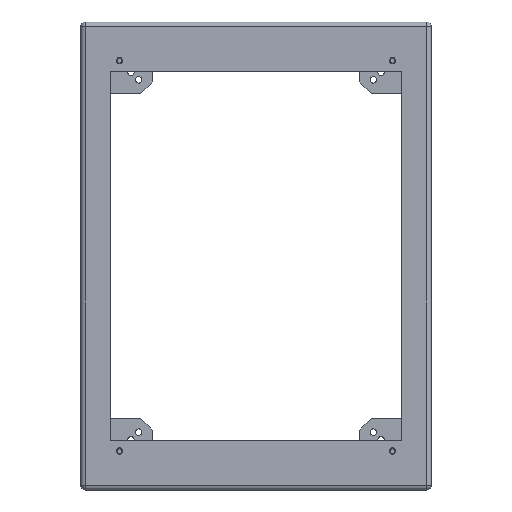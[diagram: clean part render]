
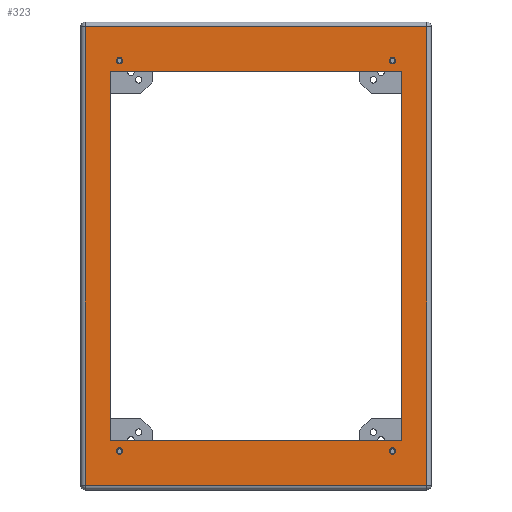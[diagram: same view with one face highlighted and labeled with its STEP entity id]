
A CAD part, top view. The second image highlights one B-rep face of the part: STEP entity #323.
In plain terms, the highlighted planar face has unit normal (0, 0, 1).
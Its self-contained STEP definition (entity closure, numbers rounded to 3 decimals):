
#323=ADVANCED_FACE('',(#1556,#1558,#1560,#1562,#1564,#1566),#1568,.T.);
#1556=FACE_BOUND('',#1557,.T.);
#1557=EDGE_LOOP('',(#2606,#2607,#2608,#2609));
#1558=FACE_BOUND('',#1559,.T.);
#1559=EDGE_LOOP('',(#2610));
#1560=FACE_BOUND('',#1561,.T.);
#1561=EDGE_LOOP('',(#2611));
#1562=FACE_BOUND('',#1563,.T.);
#1563=EDGE_LOOP('',(#2612));
#1564=FACE_BOUND('',#1565,.T.);
#1565=EDGE_LOOP('',(#2613));
#1566=FACE_BOUND('',#1567,.T.);
#1567=EDGE_LOOP('',(#2614,#2615,#2616,#2617));
#1568=PLANE('',#1569);
#1569=AXIS2_PLACEMENT_3D('',#1570,#1571,#1572);
#1570=CARTESIAN_POINT('',(0.,0.,100.));
#1571=DIRECTION('',(0.,0.,1.));
#1572=DIRECTION('',(0.,1.,0.));
#2606=ORIENTED_EDGE('',*,*,#3129,.T.);
#2607=ORIENTED_EDGE('',*,*,#3130,.T.);
#2608=ORIENTED_EDGE('',*,*,#3131,.T.);
#2609=ORIENTED_EDGE('',*,*,#3132,.T.);
#2610=ORIENTED_EDGE('',*,*,#3133,.T.);
#2611=ORIENTED_EDGE('',*,*,#3134,.T.);
#2612=ORIENTED_EDGE('',*,*,#3135,.T.);
#2613=ORIENTED_EDGE('',*,*,#3136,.T.);
#2614=ORIENTED_EDGE('',*,*,#3085,.T.);
#2615=ORIENTED_EDGE('',*,*,#3092,.T.);
#2616=ORIENTED_EDGE('',*,*,#3090,.T.);
#2617=ORIENTED_EDGE('',*,*,#3088,.T.);
#3085=EDGE_CURVE('',#3404,#3405,#3406,.F.);
#3088=EDGE_CURVE('',#3409,#3404,#3410,.F.);
#3090=EDGE_CURVE('',#3412,#3409,#3413,.F.);
#3092=EDGE_CURVE('',#3405,#3412,#3415,.F.);
#3129=EDGE_CURVE('',#3480,#3481,#3482,.T.);
#3130=EDGE_CURVE('',#3481,#3483,#3484,.T.);
#3131=EDGE_CURVE('',#3483,#3485,#3486,.T.);
#3132=EDGE_CURVE('',#3485,#3480,#3487,.T.);
#3133=EDGE_CURVE('',#3488,#3488,#3489,.F.);
#3134=EDGE_CURVE('',#3490,#3490,#3491,.F.);
#3135=EDGE_CURVE('',#3492,#3492,#3493,.F.);
#3136=EDGE_CURVE('',#3494,#3494,#3495,.F.);
#3404=VERTEX_POINT('',#4444);
#3405=VERTEX_POINT('',#4445);
#3406=LINE('',#4446,#4447);
#3409=VERTEX_POINT('',#4455);
#3410=LINE('',#4456,#4457);
#3412=VERTEX_POINT('',#4462);
#3413=LINE('',#4463,#4464);
#3415=LINE('',#4469,#4470);
#3480=VERTEX_POINT('',#5304);
#3481=VERTEX_POINT('',#5305);
#3482=LINE('',#5306,#5307);
#3483=VERTEX_POINT('',#5309);
#3484=LINE('',#5310,#5311);
#3485=VERTEX_POINT('',#5313);
#3486=LINE('',#5314,#5315);
#3487=LINE('',#5317,#5318);
#3488=VERTEX_POINT('',#5320);
#3489=CIRCLE('',#5321,5.5);
#3490=VERTEX_POINT('',#5325);
#3491=CIRCLE('',#5326,5.5);
#3492=VERTEX_POINT('',#5330);
#3493=CIRCLE('',#5331,5.5);
#3494=VERTEX_POINT('',#5335);
#3495=CIRCLE('',#5336,5.5);
#4444=CARTESIAN_POINT('',(-248.5,313.5,100.));
#4445=CARTESIAN_POINT('',(248.5,313.5,100.));
#4446=CARTESIAN_POINT('',(248.5,313.5,100.));
#4447=VECTOR('',#4448,1.);
#4448=DIRECTION('',(-1.,0.,0.));
#4455=CARTESIAN_POINT('',(-248.5,-313.5,100.));
#4456=CARTESIAN_POINT('',(-248.5,313.5,100.));
#4457=VECTOR('',#4458,1.);
#4458=DIRECTION('',(0.,-1.,0.));
#4462=CARTESIAN_POINT('',(248.5,-313.5,100.));
#4463=CARTESIAN_POINT('',(-248.5,-313.5,100.));
#4464=VECTOR('',#4465,1.);
#4465=DIRECTION('',(1.,0.,0.));
#4469=CARTESIAN_POINT('',(248.5,-313.5,100.));
#4470=VECTOR('',#4471,1.);
#4471=DIRECTION('',(0.,1.,0.));
#5304=CARTESIAN_POINT('',(-290.5,390.5,100.));
#5305=CARTESIAN_POINT('',(-290.5,-390.5,100.));
#5306=CARTESIAN_POINT('',(-290.5,390.5,100.));
#5307=VECTOR('',#5308,1.);
#5308=DIRECTION('',(0.,-1.,0.));
#5309=CARTESIAN_POINT('',(290.5,-390.5,100.));
#5310=CARTESIAN_POINT('',(-290.5,-390.5,100.));
#5311=VECTOR('',#5312,1.);
#5312=DIRECTION('',(1.,0.,0.));
#5313=CARTESIAN_POINT('',(290.5,390.5,100.));
#5314=CARTESIAN_POINT('',(290.5,-390.5,100.));
#5315=VECTOR('',#5316,1.);
#5316=DIRECTION('',(0.,1.,0.));
#5317=CARTESIAN_POINT('',(290.5,390.5,100.));
#5318=VECTOR('',#5319,1.);
#5319=DIRECTION('',(-1.,0.,0.));
#5320=CARTESIAN_POINT('',(232.5,338.,100.));
#5321=AXIS2_PLACEMENT_3D('',#5322,#5323,#5324);
#5322=CARTESIAN_POINT('',(232.5,332.5,100.));
#5323=DIRECTION('',(0.,0.,1.));
#5324=DIRECTION('',(0.,1.,0.));
#5325=CARTESIAN_POINT('',(232.5,-327.,100.));
#5326=AXIS2_PLACEMENT_3D('',#5327,#5328,#5329);
#5327=CARTESIAN_POINT('',(232.5,-332.5,100.));
#5328=DIRECTION('',(0.,0.,1.));
#5329=DIRECTION('',(0.,1.,0.));
#5330=CARTESIAN_POINT('',(-232.5,338.,100.));
#5331=AXIS2_PLACEMENT_3D('',#5332,#5333,#5334);
#5332=CARTESIAN_POINT('',(-232.5,332.5,100.));
#5333=DIRECTION('',(0.,0.,1.));
#5334=DIRECTION('',(0.,1.,0.));
#5335=CARTESIAN_POINT('',(-232.5,-327.,100.));
#5336=AXIS2_PLACEMENT_3D('',#5337,#5338,#5339);
#5337=CARTESIAN_POINT('',(-232.5,-332.5,100.));
#5338=DIRECTION('',(0.,0.,1.));
#5339=DIRECTION('',(0.,1.,0.));
